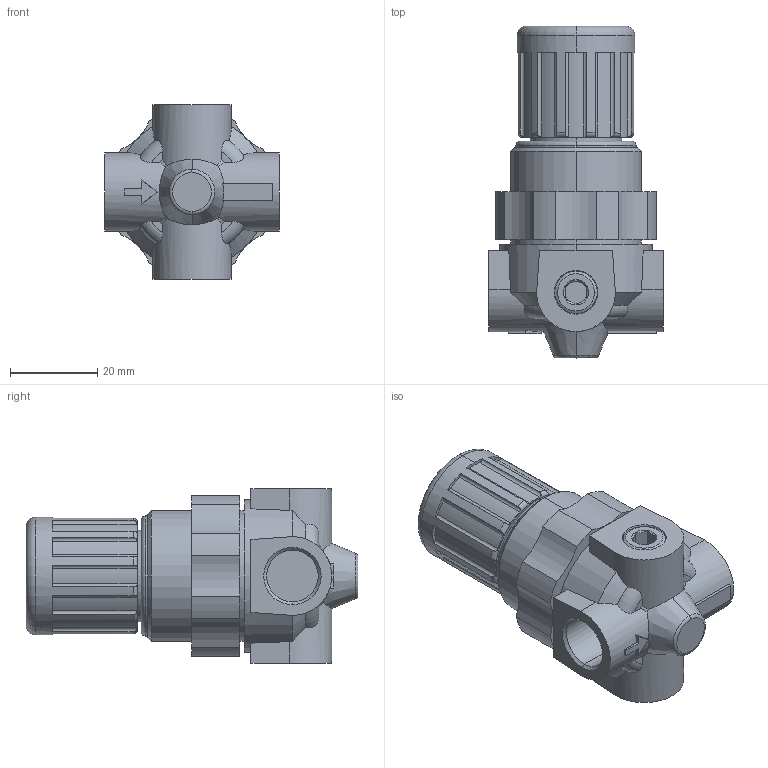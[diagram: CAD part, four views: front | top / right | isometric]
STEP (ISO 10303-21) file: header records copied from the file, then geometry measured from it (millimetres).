
FILE_DESCRIPTION((''),'2;1');
FILE_NAME('R412007781','2016-05-09T',('vol1hc'),(''),'PRO/ENGINEER BY PARAMETRIC TECHNOLOGY CORPORATION, 2012421','PRO/ENGINEER BY PARAMETRIC TECHNOLOGY CORPORATION, 2012421','');
FILE_SCHEMA(('CONFIG_CONTROL_DESIGN','SHAPE_APPEARANCE_LAYERS_GROUPS'));
Length unit declared in the file: millimetre
Products named in the file (1): R412007781
Bounding box: 40 x 76 x 40 mm (x, y, z)
Volume: 53130.9 mm3; surface area: 12114 mm2
Topology: 1 solids, 1 shells, 183 faces, 483 edges, 314 vertices
Faces by surface type: cylinder 78, plane 65, cone 28, torus 12
Entity records: 6732 total; most frequent: CARTESIAN_POINT 2109, DIRECTION 979, ORIENTED_EDGE 966, EDGE_CURVE 483, AXIS2_PLACEMENT_3D 404, VERTEX_POINT 314, CIRCLE 221, EDGE_LOOP 195
